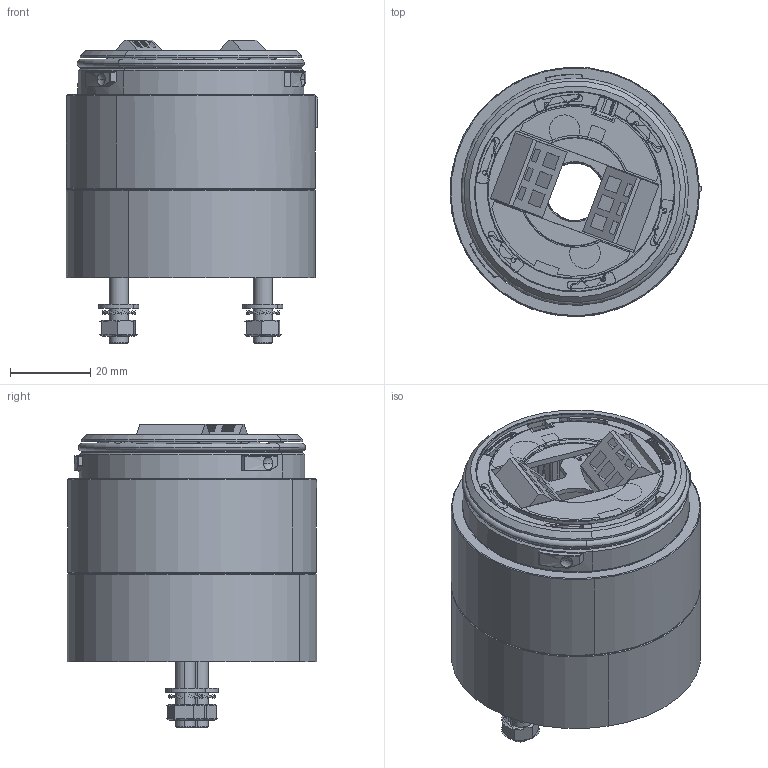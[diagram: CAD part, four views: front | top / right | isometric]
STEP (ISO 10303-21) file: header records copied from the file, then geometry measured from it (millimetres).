
FILE_DESCRIPTION((''),'2;1');
FILE_NAME('10000204919_SW0001','2012-03-20T',('WJPreisc'),('Rockwell Automation'),'PRO/ENGINEER BY PARAMETRIC TECHNOLOGY CORPORATION, 2010140','PRO/ENGINEER BY PARAMETRIC TECHNOLOGY CORPORATION, 2010140','');
FILE_SCHEMA(('CONFIG_CONTROL_DESIGN'));
Length unit declared in the file: millimetre
Products named in the file (1): 10000204919_SW0001
Bounding box: 62.6 x 62 x 75.38 mm (x, y, z)
Surface area: 53187.2 mm2 (no closed solid volume)
Topology: 0 solids, 156 shells, 761 faces, 3800 edges, 3144 vertices
Faces by surface type: plane 333, cylinder 170, cone 120, torus 75, bspline 43, sphere 20
Entity records: 41208 total; most frequent: CARTESIAN_POINT 12922, DIRECTION 5776, ORIENTED_EDGE 4812, EDGE_CURVE 3777, VERTEX_POINT 3145, AXIS2_PLACEMENT_3D 2147, VECTOR 1482, LINE 1482
